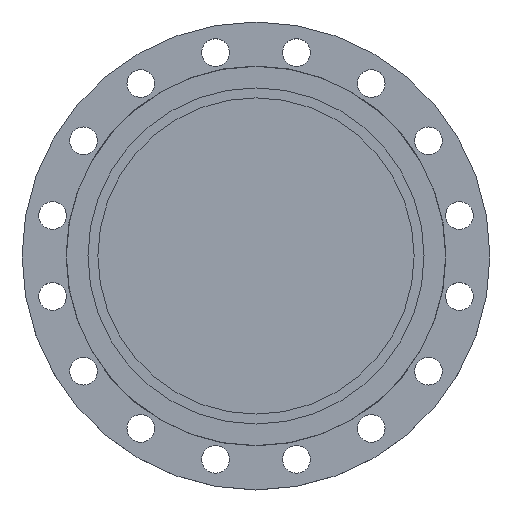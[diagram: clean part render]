
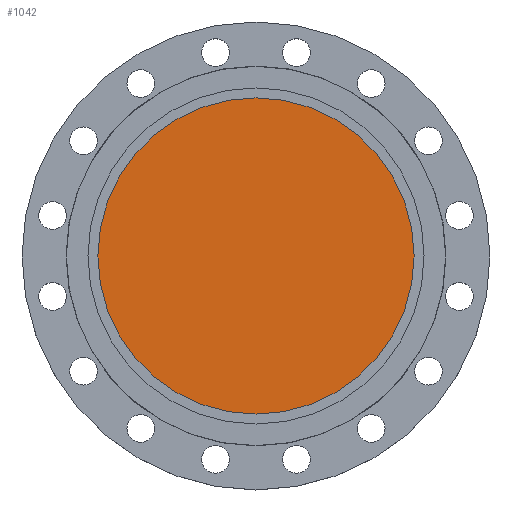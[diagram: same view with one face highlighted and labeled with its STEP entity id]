
A CAD part, top view. The second image highlights one B-rep face of the part: STEP entity #1042.
In plain terms, the highlighted planar face has unit normal (0, 0, 1).
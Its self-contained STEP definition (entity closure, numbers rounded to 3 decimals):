
#28 = DIRECTION ( 'NONE',  ( -1., 0., 0. ) ) ;
#29 = AXIS2_PLACEMENT_3D ( 'NONE', #917, #1399, #28 ) ;
#56 = CIRCLE ( 'NONE', #29, 223. ) ;
#118 = CARTESIAN_POINT ( 'NONE',  ( -223., 0., 0. ) ) ;
#489 = DIRECTION ( 'NONE',  ( -1., 0., 0. ) ) ;
#491 = DIRECTION ( 'NONE',  ( 0., 0., -1. ) ) ;
#492 = CARTESIAN_POINT ( 'NONE',  ( 0., 0., 0. ) ) ;
#529 = DIRECTION ( 'NONE',  ( 1., 0., 0. ) ) ;
#530 = DIRECTION ( 'NONE',  ( 0., 0., 1. ) ) ;
#531 = CARTESIAN_POINT ( 'NONE',  ( 0., 0., 0. ) ) ;
#533 = PLANE ( 'NONE',  #1336 ) ;
#535 = FACE_OUTER_BOUND ( 'NONE', #1094, .T. ) ;
#538 = CARTESIAN_POINT ( 'NONE',  ( 223., 0., 0. ) ) ;
#917 = CARTESIAN_POINT ( 'NONE',  ( 0., 0., 0. ) ) ;
#1037 = VERTEX_POINT ( 'NONE', #538 ) ;
#1042 = ADVANCED_FACE ( 'NONE', ( #535 ), #533, .T. ) ;
#1084 = EDGE_CURVE ( 'NONE', #1037, #1467, #1356, .T. ) ;
#1094 = EDGE_LOOP ( 'NONE', ( #1694, #1695 ) ) ;
#1336 = AXIS2_PLACEMENT_3D ( 'NONE', #531, #530, #529 ) ;
#1356 = CIRCLE ( 'NONE', #1364, 223. ) ;
#1364 = AXIS2_PLACEMENT_3D ( 'NONE', #492, #491, #489 ) ;
#1399 = DIRECTION ( 'NONE',  ( 0., 0., -1. ) ) ;
#1467 = VERTEX_POINT ( 'NONE', #118 ) ;
#1694 = ORIENTED_EDGE ( 'NONE', *, *, #1750, .F. ) ;
#1695 = ORIENTED_EDGE ( 'NONE', *, *, #1084, .F. ) ;
#1750 = EDGE_CURVE ( 'NONE', #1467, #1037, #56, .T. ) ;
